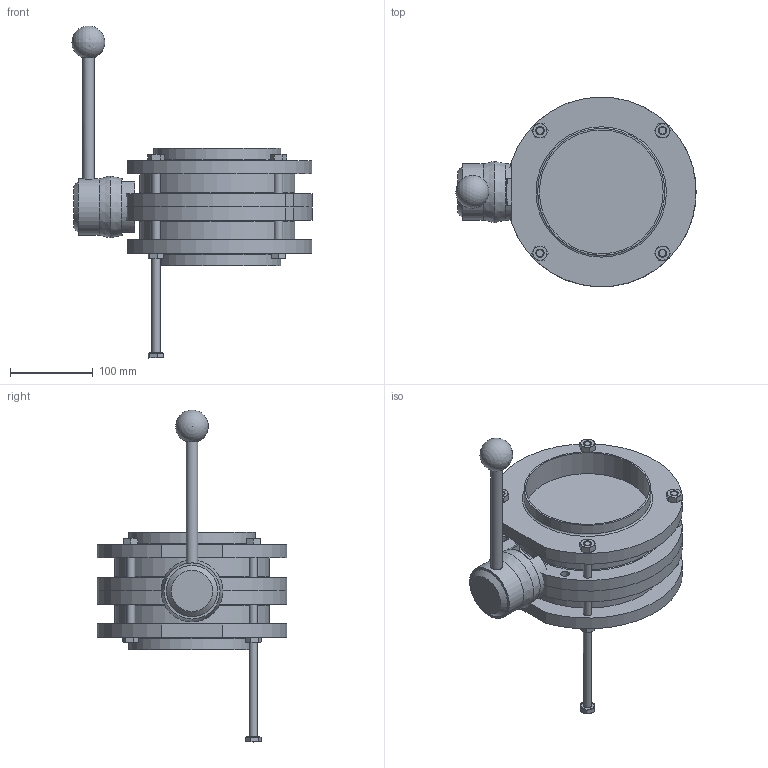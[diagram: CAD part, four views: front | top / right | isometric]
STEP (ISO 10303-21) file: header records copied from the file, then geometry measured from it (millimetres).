
FILE_DESCRIPTION(/* description */ ('VVF VALV.FARF.DN150(154X2) WAF4 316 EPDM LEVA INOX 5POS.'),/* implementation_level */ '2;1');
FILE_NAME(/* name */ 'C:\_DED_PWS\ZIGN-L\DB\B\EBA\BEBAC6150BEAA-00^SAGOMA.step',/* time_stamp */ '2022-06-14T13:56:39+02:00',/* author */ (''),/* organization */ (''),/* preprocessor_version */ 'ST-DEVELOPER v18.1',/* originating_system */ 'Autodesk Inventor 2022',/* authorisation */ '');
FILE_SCHEMA (('CONFIG_CONTROL_DESIGN'));
Length unit declared in the file: millimetre
Products named in the file (6): BEBAC6150BEAA; MANIGLIA-DN125-150; MEZZO-COR-DN150-WAFER-4; FLANGIA-DN154x2-WAFER-4; UNI 5588 - M10; UNI 5738 - M10 x 1,25 x 120
Assembly tree (14 placements, depth 2):
  BEBAC6150BEAA
    MANIGLIA-DN125-150
    FLANGIA-DN154x2-WAFER-4  x2
    MEZZO-COR-DN150-WAFER-4  x2
    UNI 5738 - M10 x 1,25 x 120  x5
    UNI 5588 - M10  x4
Bounding box: 291.2 x 229.8 x 402.34 mm (x, y, z)
Volume: 3767325.2 mm3; surface area: 447055.5 mm2
Topology: 14 solids, 14 shells, 263 faces, 574 edges, 353 vertices
Faces by surface type: plane 111, cone 94, cylinder 53, torus 4, sphere 1
Full cylindrical faces by diameter (mm): 8.376 x4, 10 x5, 10.5 x20, 14 x1, 16.2 x5, 68 x1, 69 x1, 150 x2, 154 x2, 188 x2
Entity records: 2779 total; most frequent: CARTESIAN_POINT 529, DIRECTION 450, ORIENTED_EDGE 386, EDGE_CURVE 193, AXIS2_PLACEMENT_3D 189, VERTEX_POINT 122, EDGE_LOOP 117, FACE_OUTER_BOUND 87
